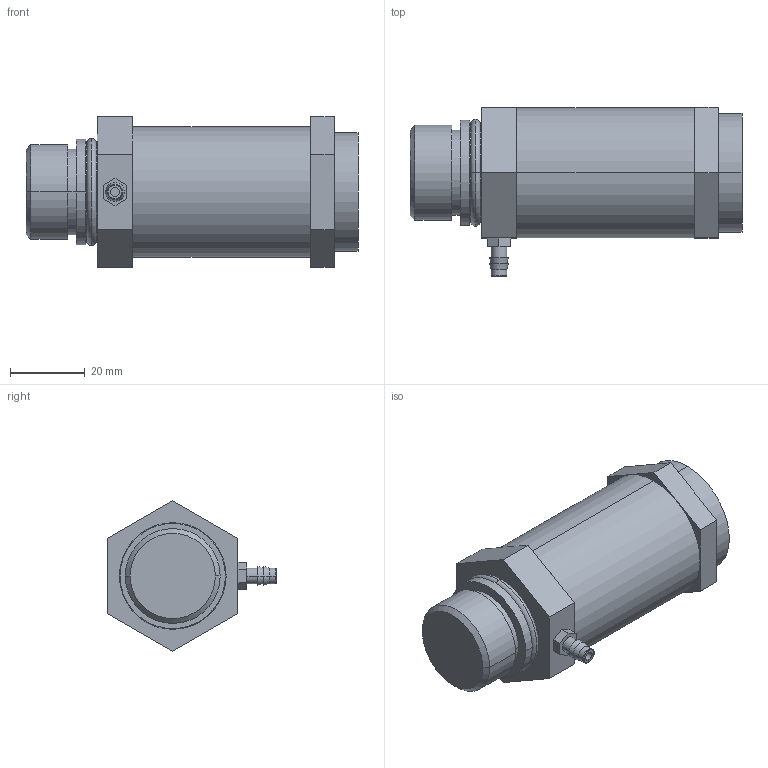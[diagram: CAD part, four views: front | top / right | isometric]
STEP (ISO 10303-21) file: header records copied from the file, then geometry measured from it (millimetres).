
FILE_DESCRIPTION((''),'2;1');
FILE_NAME('UG3_ASM','2017-08-24T',('jennifer.elliott'),('CenterLine (Windsor) Ltd - Automation Components Division'),'PRO/ENGINEER BY PARAMETRIC TECHNOLOGY CORPORATION, 2015030','PRO/ENGINEER BY PARAMETRIC TECHNOLOGY CORPORATION, 2015030','');
FILE_SCHEMA(('AUTOMOTIVE_DESIGN { 1 0 10303 214 1 1 1 1 }'));
Length unit declared in the file: inch
Products named in the file (7): PRT0169; PRT0170; PRT0171; PRT0172; PRT0173; PRT0174; UG3_ASM
Assembly tree (6 placements, depth 2):
  UG3_ASM
    PRT0169
    PRT0170
    PRT0171
    PRT0172
    PRT0173
    PRT0174
Bounding box: 88.9 x 45.24 x 40.33 mm (x, y, z)
Volume: 77520.6 mm3; surface area: 18465.9 mm2
Topology: 6 solids, 6 shells, 67 faces, 138 edges, 88 vertices
Faces by surface type: plane 35, cylinder 18, torus 8, cone 6
Entity records: 2228 total; most frequent: DIRECTION 358, CARTESIAN_POINT 325, ORIENTED_EDGE 276, AXIS2_PLACEMENT_3D 140, EDGE_CURVE 138, VERTEX_POINT 88, VECTOR 78, LINE 78
